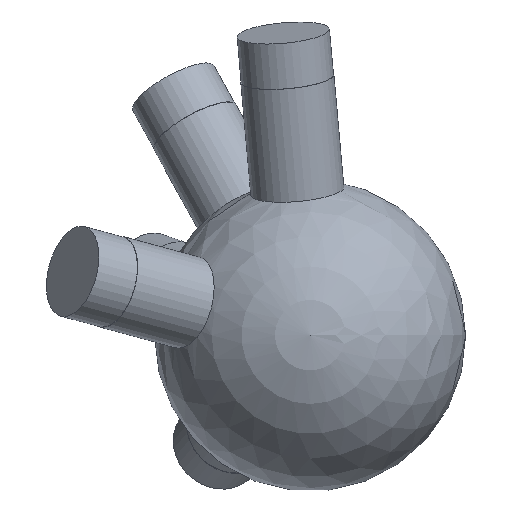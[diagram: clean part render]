
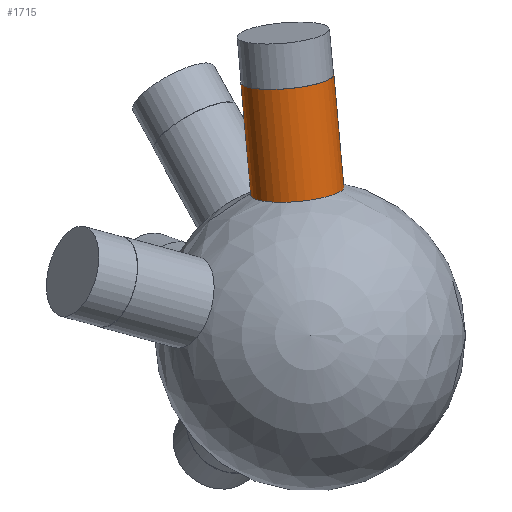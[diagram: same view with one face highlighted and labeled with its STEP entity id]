
A CAD part, top view. The second image highlights one B-rep face of the part: STEP entity #1715.
In plain terms, the highlighted cylindrical face has radius 6 mm (diameter 12 mm), a full revolution.
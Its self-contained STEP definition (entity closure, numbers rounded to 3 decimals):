
#33 = SPHERICAL_SURFACE('',#34,20.);
#34 = AXIS2_PLACEMENT_3D('',#35,#36,#37);
#35 = CARTESIAN_POINT('',(0.,0.,0.));
#36 = DIRECTION('',(0.,0.,1.));
#37 = DIRECTION('',(1.,0.,-0.));
#798 = EDGE_CURVE('',#799,#799,#801,.T.);
#799 = VERTEX_POINT('',#800);
#800 = CARTESIAN_POINT('',(-1.648,17.179,
    10.109));
#801 = SURFACE_CURVE('',#802,(#807,#869),.PCURVE_S1.);
#802 = CIRCLE('',#803,6.);
#803 = AXIS2_PLACEMENT_3D('',#804,#805,#806);
#804 = CARTESIAN_POINT('',(-1.648,18.524,
    4.261));
#805 = DIRECTION('',(-0.086,0.971,0.223));
#806 = DIRECTION('',(0.,-0.224,0.975)
  );
#807 = PCURVE('',#33,#808);
#808 = DEFINITIONAL_REPRESENTATION('',(#809),#868);
#809 = B_SPLINE_CURVE_WITH_KNOTS('',8,(#810,#811,#812,#813,#814,#815,
    #816,#817,#818,#819,#820,#821,#822,#823,#824,#825,#826,#827,#828,
    #829,#830,#831,#832,#833,#834,#835,#836,#837,#838,#839,#840,#841,
    #842,#843,#844,#845,#846,#847,#848,#849,#850,#851,#852,#853,#854,
    #855,#856,#857,#858,#859,#860,#861,#862,#863,#864,#865,#866,#867),
  .UNSPECIFIED.,.T.,.F.,(9,7,7,7,7,7,7,7,9),(0.,0.785,
    1.473,2.675,3.577,4.254,
    5.268,5.776,6.283),.UNSPECIFIED.);
#810 = CARTESIAN_POINT('',(1.666,0.53));
#811 = CARTESIAN_POINT('',(1.632,0.531));
#812 = CARTESIAN_POINT('',(1.598,0.527));
#813 = CARTESIAN_POINT('',(1.564,0.521));
#814 = CARTESIAN_POINT('',(1.532,0.51));
#815 = CARTESIAN_POINT('',(1.502,0.496));
#816 = CARTESIAN_POINT('',(1.474,0.479));
#817 = CARTESIAN_POINT('',(1.45,0.46));
#818 = CARTESIAN_POINT('',(1.409,0.419));
#819 = CARTESIAN_POINT('',(1.392,0.398));
#820 = CARTESIAN_POINT('',(1.378,0.375));
#821 = CARTESIAN_POINT('',(1.367,0.351));
#822 = CARTESIAN_POINT('',(1.358,0.327));
#823 = CARTESIAN_POINT('',(1.352,0.301));
#824 = CARTESIAN_POINT('',(1.348,0.276));
#825 = CARTESIAN_POINT('',(1.345,0.205));
#826 = CARTESIAN_POINT('',(1.351,0.16));
#827 = CARTESIAN_POINT('',(1.364,0.115));
#828 = CARTESIAN_POINT('',(1.383,0.074));
#829 = CARTESIAN_POINT('',(1.41,0.035));
#830 = CARTESIAN_POINT('',(1.442,0.002));
#831 = CARTESIAN_POINT('',(1.479,-0.025));
#832 = CARTESIAN_POINT('',(1.549,-0.061));
#833 = CARTESIAN_POINT('',(1.581,-0.073));
#834 = CARTESIAN_POINT('',(1.614,-0.08));
#835 = CARTESIAN_POINT('',(1.649,-0.084));
#836 = CARTESIAN_POINT('',(1.683,-0.083));
#837 = CARTESIAN_POINT('',(1.717,-0.077));
#838 = CARTESIAN_POINT('',(1.75,-0.068));
#839 = CARTESIAN_POINT('',(1.805,-0.044));
#840 = CARTESIAN_POINT('',(1.827,-0.032));
#841 = CARTESIAN_POINT('',(1.848,-0.018));
#842 = CARTESIAN_POINT('',(1.868,-0.002));
#843 = CARTESIAN_POINT('',(1.886,0.016));
#844 = CARTESIAN_POINT('',(1.903,0.036));
#845 = CARTESIAN_POINT('',(1.917,0.056));
#846 = CARTESIAN_POINT('',(1.949,0.112));
#847 = CARTESIAN_POINT('',(1.963,0.147));
#848 = CARTESIAN_POINT('',(1.973,0.185));
#849 = CARTESIAN_POINT('',(1.977,0.223));
#850 = CARTESIAN_POINT('',(1.977,0.262));
#851 = CARTESIAN_POINT('',(1.97,0.3));
#852 = CARTESIAN_POINT('',(1.958,0.337));
#853 = CARTESIAN_POINT('',(1.931,0.388));
#854 = CARTESIAN_POINT('',(1.921,0.405));
#855 = CARTESIAN_POINT('',(1.909,0.42));
#856 = CARTESIAN_POINT('',(1.896,0.435));
#857 = CARTESIAN_POINT('',(1.881,0.449));
#858 = CARTESIAN_POINT('',(1.866,0.462));
#859 = CARTESIAN_POINT('',(1.849,0.474));
#860 = CARTESIAN_POINT('',(1.813,0.495));
#861 = CARTESIAN_POINT('',(1.794,0.504));
#862 = CARTESIAN_POINT('',(1.774,0.512));
#863 = CARTESIAN_POINT('',(1.754,0.519));
#864 = CARTESIAN_POINT('',(1.732,0.524));
#865 = CARTESIAN_POINT('',(1.71,0.527));
#866 = CARTESIAN_POINT('',(1.688,0.529));
#867 = CARTESIAN_POINT('',(1.666,0.53));
#868 = ( GEOMETRIC_REPRESENTATION_CONTEXT(2) 
PARAMETRIC_REPRESENTATION_CONTEXT() REPRESENTATION_CONTEXT('2D SPACE',''
  ) );
#869 = PCURVE('',#870,#875);
#870 = CYLINDRICAL_SURFACE('',#871,6.);
#871 = AXIS2_PLACEMENT_3D('',#872,#873,#874);
#872 = CARTESIAN_POINT('',(0.,0.,0.));
#873 = DIRECTION('',(-0.086,0.971,0.223));
#874 = DIRECTION('',(0.,-0.224,0.975)
  );
#875 = DEFINITIONAL_REPRESENTATION('',(#876),#880);
#876 = LINE('',#877,#878);
#877 = CARTESIAN_POINT('',(0.,19.079));
#878 = VECTOR('',#879,1.);
#879 = DIRECTION('',(1.,0.));
#880 = ( GEOMETRIC_REPRESENTATION_CONTEXT(2) 
PARAMETRIC_REPRESENTATION_CONTEXT() REPRESENTATION_CONTEXT('2D SPACE',''
  ) );
#1715 = ADVANCED_FACE('',(#1716),#870,.T.);
#1716 = FACE_BOUND('',#1717,.T.);
#1717 = EDGE_LOOP('',(#1718,#1741,#1768,#1769));
#1718 = ORIENTED_EDGE('',*,*,#1719,.T.);
#1719 = EDGE_CURVE('',#799,#1720,#1722,.T.);
#1720 = VERTEX_POINT('',#1721);
#1721 = CARTESIAN_POINT('',(-2.935,31.653,
    13.438));
#1722 = SEAM_CURVE('',#1723,(#1727,#1734),.PCURVE_S1.);
#1723 = LINE('',#1724,#1725);
#1724 = CARTESIAN_POINT('',(0.,-1.345,
    5.847));
#1725 = VECTOR('',#1726,1.);
#1726 = DIRECTION('',(-0.086,0.971,0.223)
  );
#1727 = PCURVE('',#870,#1728);
#1728 = DEFINITIONAL_REPRESENTATION('',(#1729),#1733);
#1729 = LINE('',#1730,#1731);
#1730 = CARTESIAN_POINT('',(6.283,-0.));
#1731 = VECTOR('',#1732,1.);
#1732 = DIRECTION('',(0.,1.));
#1733 = ( GEOMETRIC_REPRESENTATION_CONTEXT(2) 
PARAMETRIC_REPRESENTATION_CONTEXT() REPRESENTATION_CONTEXT('2D SPACE',''
  ) );
#1734 = PCURVE('',#870,#1735);
#1735 = DEFINITIONAL_REPRESENTATION('',(#1736),#1740);
#1736 = LINE('',#1737,#1738);
#1737 = CARTESIAN_POINT('',(0.,-0.));
#1738 = VECTOR('',#1739,1.);
#1739 = DIRECTION('',(0.,1.));
#1740 = ( GEOMETRIC_REPRESENTATION_CONTEXT(2) 
PARAMETRIC_REPRESENTATION_CONTEXT() REPRESENTATION_CONTEXT('2D SPACE',''
  ) );
#1741 = ORIENTED_EDGE('',*,*,#1742,.F.);
#1742 = EDGE_CURVE('',#1720,#1720,#1743,.T.);
#1743 = SURFACE_CURVE('',#1744,(#1749,#1756),.PCURVE_S1.);
#1744 = CIRCLE('',#1745,6.);
#1745 = AXIS2_PLACEMENT_3D('',#1746,#1747,#1748);
#1746 = CARTESIAN_POINT('',(-2.935,32.998,
    7.591));
#1747 = DIRECTION('',(-0.086,0.971,0.223)
  );
#1748 = DIRECTION('',(0.,-0.224,0.975)
  );
#1749 = PCURVE('',#870,#1750);
#1750 = DEFINITIONAL_REPRESENTATION('',(#1751),#1755);
#1751 = LINE('',#1752,#1753);
#1752 = CARTESIAN_POINT('',(0.,33.987));
#1753 = VECTOR('',#1754,1.);
#1754 = DIRECTION('',(1.,0.));
#1755 = ( GEOMETRIC_REPRESENTATION_CONTEXT(2) 
PARAMETRIC_REPRESENTATION_CONTEXT() REPRESENTATION_CONTEXT('2D SPACE',''
  ) );
#1756 = PCURVE('',#1757,#1762);
#1757 = PLANE('',#1758);
#1758 = AXIS2_PLACEMENT_3D('',#1759,#1760,#1761);
#1759 = CARTESIAN_POINT('',(-2.935,32.998,
    7.591));
#1760 = DIRECTION('',(-0.086,0.971,0.223)
  );
#1761 = DIRECTION('',(0.,-0.224,0.975
    ));
#1762 = DEFINITIONAL_REPRESENTATION('',(#1763),#1767);
#1763 = CIRCLE('',#1764,6.);
#1764 = AXIS2_PLACEMENT_2D('',#1765,#1766);
#1765 = CARTESIAN_POINT('',(0.,0.));
#1766 = DIRECTION('',(1.,0.));
#1767 = ( GEOMETRIC_REPRESENTATION_CONTEXT(2) 
PARAMETRIC_REPRESENTATION_CONTEXT() REPRESENTATION_CONTEXT('2D SPACE',''
  ) );
#1768 = ORIENTED_EDGE('',*,*,#1719,.F.);
#1769 = ORIENTED_EDGE('',*,*,#798,.T.);
